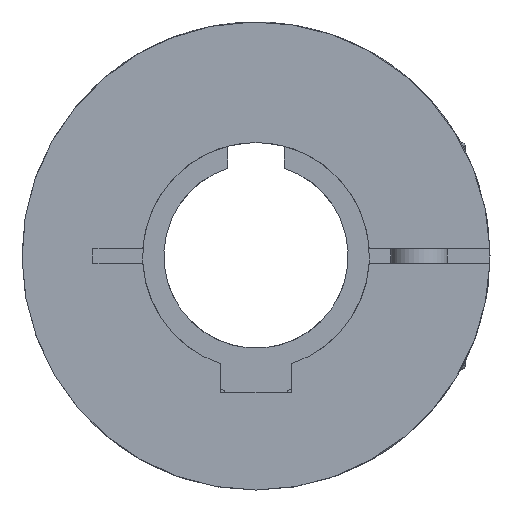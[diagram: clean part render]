
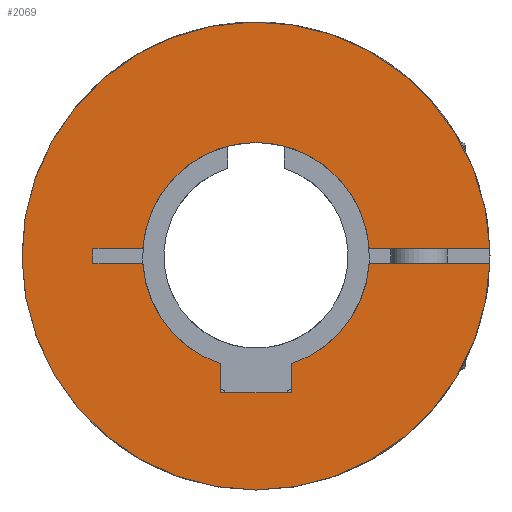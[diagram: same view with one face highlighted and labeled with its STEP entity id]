
A CAD part, left-side view. The second image highlights one B-rep face of the part: STEP entity #2069.
In plain terms, the highlighted planar face has unit normal (-1, 0, 0).
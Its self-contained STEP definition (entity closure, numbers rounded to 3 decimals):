
#32=PLANE('',#2358);
#218=FACE_OUTER_BOUND('',#345,.T.);
#345=EDGE_LOOP('',(#1558,#1559,#1560,#1561,#1562,#1563,#1564,#1565,#1566,
#1567,#1568,#1569,#1570));
#482=LINE('',#3610,#605);
#485=LINE('',#3616,#608);
#486=LINE('',#3618,#609);
#488=LINE('',#3622,#611);
#491=LINE('',#3627,#614);
#493=LINE('',#3630,#616);
#494=LINE('',#3632,#617);
#495=LINE('',#3633,#618);
#605=VECTOR('',#2783,1.);
#608=VECTOR('',#2788,1.);
#609=VECTOR('',#2791,1.);
#611=VECTOR('',#2795,17.084);
#614=VECTOR('',#2800,27.069);
#616=VECTOR('',#2804,27.069);
#617=VECTOR('',#2805,17.084);
#618=VECTOR('',#2806,2.);
#791=CIRCLE('',#2340,33.);
#793=CIRCLE('',#2342,33.);
#796=CIRCLE('',#2346,16.);
#799=CIRCLE('',#2350,16.);
#801=CIRCLE('',#2352,16.);
#948=VERTEX_POINT('',#3562);
#949=VERTEX_POINT('',#3563);
#951=VERTEX_POINT('',#3568);
#956=VERTEX_POINT('',#3580);
#957=VERTEX_POINT('',#3581);
#962=VERTEX_POINT('',#3592);
#963=VERTEX_POINT('',#3594);
#966=VERTEX_POINT('',#3600);
#967=VERTEX_POINT('',#3602);
#969=VERTEX_POINT('',#3608);
#971=VERTEX_POINT('',#3614);
#972=VERTEX_POINT('',#3621);
#974=VERTEX_POINT('',#3631);
#1183=EDGE_CURVE('',#948,#949,#791,.T.);
#1186=EDGE_CURVE('',#949,#951,#793,.T.);
#1192=EDGE_CURVE('',#956,#957,#796,.T.);
#1198=EDGE_CURVE('',#963,#962,#799,.T.);
#1202=EDGE_CURVE('',#967,#966,#801,.T.);
#1206=EDGE_CURVE('',#966,#969,#482,.T.);
#1209=EDGE_CURVE('',#969,#971,#485,.T.);
#1210=EDGE_CURVE('',#971,#963,#486,.T.);
#1212=EDGE_CURVE('',#972,#956,#488,.T.);
#1215=EDGE_CURVE('',#948,#967,#491,.T.);
#1217=EDGE_CURVE('',#957,#951,#493,.T.);
#1218=EDGE_CURVE('',#974,#962,#494,.T.);
#1219=EDGE_CURVE('',#972,#974,#495,.T.);
#1558=ORIENTED_EDGE('',*,*,#1192,.T.);
#1559=ORIENTED_EDGE('',*,*,#1217,.T.);
#1560=ORIENTED_EDGE('',*,*,#1186,.F.);
#1561=ORIENTED_EDGE('',*,*,#1183,.F.);
#1562=ORIENTED_EDGE('',*,*,#1215,.T.);
#1563=ORIENTED_EDGE('',*,*,#1202,.T.);
#1564=ORIENTED_EDGE('',*,*,#1206,.T.);
#1565=ORIENTED_EDGE('',*,*,#1209,.T.);
#1566=ORIENTED_EDGE('',*,*,#1210,.T.);
#1567=ORIENTED_EDGE('',*,*,#1198,.T.);
#1568=ORIENTED_EDGE('',*,*,#1218,.F.);
#1569=ORIENTED_EDGE('',*,*,#1219,.F.);
#1570=ORIENTED_EDGE('',*,*,#1212,.T.);
#2069=ADVANCED_FACE('',(#218),#32,.T.);
#2340=AXIS2_PLACEMENT_3D('',#3564,#2743,#2744);
#2342=AXIS2_PLACEMENT_3D('',#3569,#2748,#2749);
#2346=AXIS2_PLACEMENT_3D('',#3582,#2759,#2760);
#2350=AXIS2_PLACEMENT_3D('',#3595,#2770,#2771);
#2352=AXIS2_PLACEMENT_3D('',#3603,#2776,#2777);
#2358=AXIS2_PLACEMENT_3D('',#3629,#2802,#2803);
#2743=DIRECTION('center_axis',(1.,0.,0.));
#2744=DIRECTION('ref_axis',(0.,0.,1.));
#2748=DIRECTION('center_axis',(1.,0.,0.));
#2749=DIRECTION('ref_axis',(0.,0.,1.));
#2759=DIRECTION('center_axis',(1.,0.,0.));
#2760=DIRECTION('ref_axis',(0.,0.,-1.));
#2770=DIRECTION('center_axis',(1.,0.,0.));
#2771=DIRECTION('ref_axis',(0.,0.,-1.));
#2776=DIRECTION('center_axis',(1.,0.,0.));
#2777=DIRECTION('ref_axis',(0.,0.,-1.));
#2783=DIRECTION('',(0.,0.,-1.));
#2788=DIRECTION('',(0.,1.,0.));
#2791=DIRECTION('',(0.,0.,1.));
#2795=DIRECTION('',(0.,-1.,0.));
#2800=DIRECTION('',(0.,1.,0.));
#2802=DIRECTION('center_axis',(-1.,0.,0.));
#2803=DIRECTION('ref_axis',(0.,-1.,0.));
#2804=DIRECTION('',(0.,-1.,0.));
#2805=DIRECTION('',(0.,-1.,0.));
#2806=DIRECTION('',(0.,0.,-1.));
#3562=CARTESIAN_POINT('',(0.,-32.985,-1.));
#3563=CARTESIAN_POINT('',(0.,0.,-33.));
#3564=CARTESIAN_POINT('Origin',(0.,0.,0.));
#3568=CARTESIAN_POINT('',(0.,-32.985,1.));
#3569=CARTESIAN_POINT('Origin',(0.,0.,0.));
#3580=CARTESIAN_POINT('',(0.,15.969,1.));
#3581=CARTESIAN_POINT('',(0.,-15.969,1.));
#3582=CARTESIAN_POINT('Origin',(0.,0.,0.));
#3592=CARTESIAN_POINT('',(0.,15.969,-1.));
#3594=CARTESIAN_POINT('',(0.,5.,-15.199));
#3595=CARTESIAN_POINT('Origin',(0.,0.,0.));
#3600=CARTESIAN_POINT('',(0.,-5.,-15.199));
#3602=CARTESIAN_POINT('',(0.,-15.969,-1.));
#3603=CARTESIAN_POINT('Origin',(0.,0.,0.));
#3608=CARTESIAN_POINT('',(0.,-5.,-19.3));
#3610=CARTESIAN_POINT('',(0.,-5.,-4.825));
#3614=CARTESIAN_POINT('',(0.,5.,-19.3));
#3616=CARTESIAN_POINT('',(0.,0.,-19.3));
#3618=CARTESIAN_POINT('',(0.,5.,-4.825));
#3621=CARTESIAN_POINT('',(0.,23.,1.));
#3622=CARTESIAN_POINT('',(0.,23.,1.));
#3627=CARTESIAN_POINT('',(0.,-32.985,-1.));
#3629=CARTESIAN_POINT('Origin',(0.,0.,0.));
#3630=CARTESIAN_POINT('',(0.,-5.916,1.));
#3631=CARTESIAN_POINT('',(0.,23.,-1.));
#3632=CARTESIAN_POINT('',(0.,23.,-1.));
#3633=CARTESIAN_POINT('',(0.,23.,1.));
